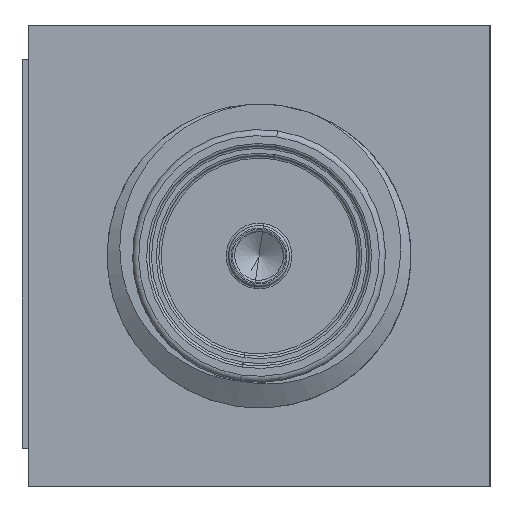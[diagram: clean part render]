
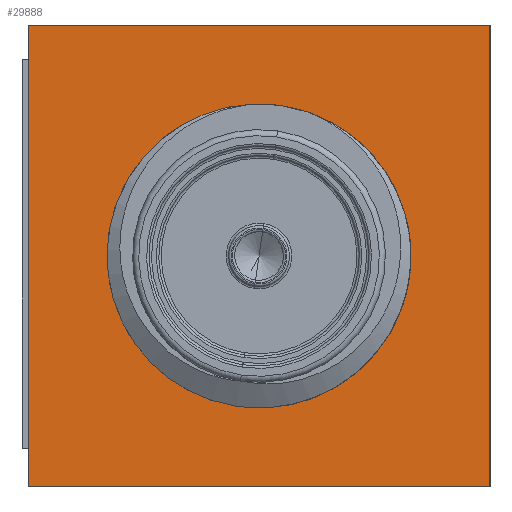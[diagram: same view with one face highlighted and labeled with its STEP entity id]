
A CAD part, left-side view. The second image highlights one B-rep face of the part: STEP entity #29888.
In plain terms, the highlighted planar face has unit normal (-1, 0, 0).
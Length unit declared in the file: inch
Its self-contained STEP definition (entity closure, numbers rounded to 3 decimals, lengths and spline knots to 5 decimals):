
#1458 = CARTESIAN_POINT ( 'NONE',  ( 0.44035, 0.06555, -0.084 ) ) ;
#2083 = LINE ( 'NONE', #57458, #44788 ) ;
#2879 = DIRECTION ( 'NONE',  ( 0., 0., 1. ) ) ;
#3241 = EDGE_LOOP ( 'NONE', ( #38267, #19252, #12395, #45936 ) ) ;
#3344 = LINE ( 'NONE', #21558, #50763 ) ;
#3468 = CARTESIAN_POINT ( 'NONE',  ( 0.44035, 0.06555, -0.19 ) ) ;
#4670 = CIRCLE ( 'NONE', #26696, 0.106 ) ;
#4975 = EDGE_LOOP ( 'NONE', ( #22559, #46259 ) ) ;
#5498 = EDGE_CURVE ( 'NONE', #59206, #56120, #30244, .T. ) ;
#6918 = CIRCLE ( 'NONE', #26994, 0.106 ) ;
#8442 = DIRECTION ( 'NONE',  ( 0., 1., 0. ) ) ;
#8653 = VECTOR ( 'NONE', #8442, 39.37008 ) ;
#9376 = VECTOR ( 'NONE', #33843, 39.37008 ) ;
#11635 = DIRECTION ( 'NONE',  ( 0., 0., 1. ) ) ;
#12395 = ORIENTED_EDGE ( 'NONE', *, *, #18871, .T. ) ;
#13499 = FACE_OUTER_BOUND ( 'NONE', #3241, .T. ) ;
#14065 = PLANE ( 'NONE',  #36888 ) ;
#15998 = DIRECTION ( 'NONE',  ( -1., 0., 0. ) ) ;
#16513 = VERTEX_POINT ( 'NONE', #32443 ) ;
#18871 = EDGE_CURVE ( 'NONE', #23183, #48070, #2083, .T. ) ;
#19228 = CARTESIAN_POINT ( 'NONE',  ( 0.44035, 0.25555, 0. ) ) ;
#19252 = ORIENTED_EDGE ( 'NONE', *, *, #23901, .F. ) ;
#19885 = DIRECTION ( 'NONE',  ( -1., 0., 0. ) ) ;
#21558 = CARTESIAN_POINT ( 'NONE',  ( 0.44035, -0.12445, -0.38 ) ) ;
#21894 = CARTESIAN_POINT ( 'NONE',  ( 0.44035, -0.12445, 0. ) ) ;
#22559 = ORIENTED_EDGE ( 'NONE', *, *, #32425, .F. ) ;
#23183 = VERTEX_POINT ( 'NONE', #26826 ) ;
#23901 = EDGE_CURVE ( 'NONE', #23183, #59206, #3344, .T. ) ;
#26405 = CARTESIAN_POINT ( 'NONE',  ( 0.44035, -0.12445, 0. ) ) ;
#26696 = AXIS2_PLACEMENT_3D ( 'NONE', #3468, #15998, #2879 ) ;
#26826 = CARTESIAN_POINT ( 'NONE',  ( 0.44035, -0.12445, -0.38 ) ) ;
#26994 = AXIS2_PLACEMENT_3D ( 'NONE', #58898, #19885, #46574 ) ;
#27293 = DIRECTION ( 'NONE',  ( 0., 0., 1. ) ) ;
#27791 = CARTESIAN_POINT ( 'NONE',  ( 0.44035, 0.25555, -0.38 ) ) ;
#28001 = VERTEX_POINT ( 'NONE', #1458 ) ;
#29888 = ADVANCED_FACE ( 'NONE', ( #58771, #13499 ), #14065, .T. ) ;
#30244 = LINE ( 'NONE', #38620, #9376 ) ;
#31813 = CARTESIAN_POINT ( 'NONE',  ( 0.44035, -0.12445, -0.38 ) ) ;
#32425 = EDGE_CURVE ( 'NONE', #28001, #16513, #4670, .T. ) ;
#32443 = CARTESIAN_POINT ( 'NONE',  ( 0.44035, 0.06555, -0.296 ) ) ;
#33843 = DIRECTION ( 'NONE',  ( 0., 0., 1. ) ) ;
#36888 = AXIS2_PLACEMENT_3D ( 'NONE', #31813, #41648, #27293 ) ;
#38267 = ORIENTED_EDGE ( 'NONE', *, *, #5498, .F. ) ;
#38620 = CARTESIAN_POINT ( 'NONE',  ( 0.44035, 0.25555, -0.38 ) ) ;
#41648 = DIRECTION ( 'NONE',  ( -1., 0., 0. ) ) ;
#44788 = VECTOR ( 'NONE', #11635, 39.37008 ) ;
#45936 = ORIENTED_EDGE ( 'NONE', *, *, #52016, .T. ) ;
#46259 = ORIENTED_EDGE ( 'NONE', *, *, #55719, .F. ) ;
#46574 = DIRECTION ( 'NONE',  ( 0., 0., 1. ) ) ;
#48070 = VERTEX_POINT ( 'NONE', #26405 ) ;
#50763 = VECTOR ( 'NONE', #58129, 39.37008 ) ;
#52016 = EDGE_CURVE ( 'NONE', #48070, #56120, #58486, .T. ) ;
#55719 = EDGE_CURVE ( 'NONE', #16513, #28001, #6918, .T. ) ;
#56120 = VERTEX_POINT ( 'NONE', #19228 ) ;
#57458 = CARTESIAN_POINT ( 'NONE',  ( 0.44035, -0.12445, -0.38 ) ) ;
#58129 = DIRECTION ( 'NONE',  ( 0., 1., 0. ) ) ;
#58486 = LINE ( 'NONE', #21894, #8653 ) ;
#58771 = FACE_BOUND ( 'NONE', #4975, .T. ) ;
#58898 = CARTESIAN_POINT ( 'NONE',  ( 0.44035, 0.06555, -0.19 ) ) ;
#59206 = VERTEX_POINT ( 'NONE', #27791 ) ;
